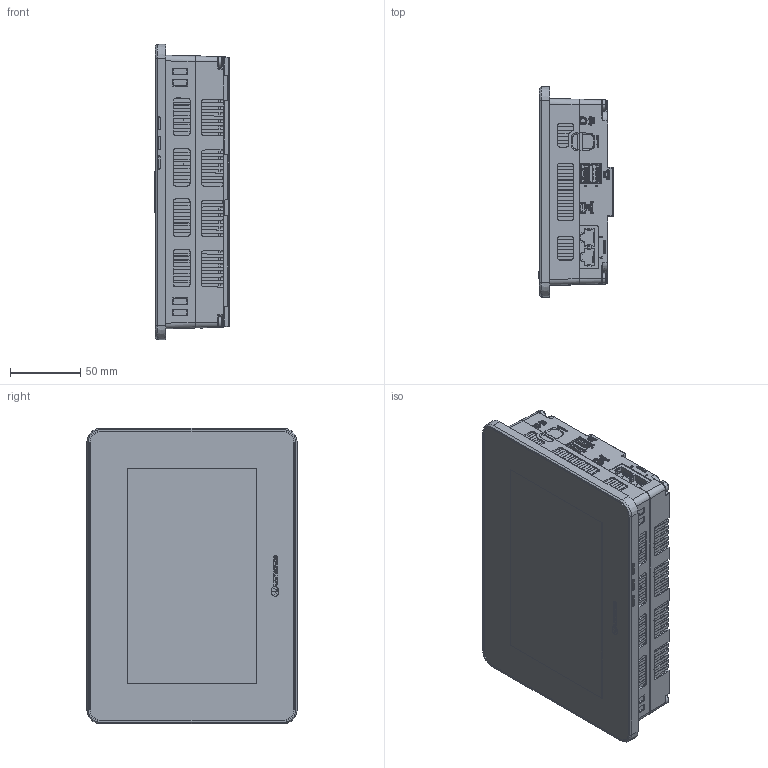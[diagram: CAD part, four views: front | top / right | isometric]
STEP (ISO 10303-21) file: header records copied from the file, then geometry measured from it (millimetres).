
FILE_DESCRIPTION (( 'STEP AP203' ), '1' );
FILE_NAME ('UniStream Panel 7inch.STEP', '2014-01-30T07:55:09', ( 'dell' ), ( '' ), 'SwSTEP 2.0', 'SolidWorks 2011', '' );
FILE_SCHEMA (( 'CONFIG_CONTROL_DESIGN' ));
Products named in the file (1): UniStream Panel 7inch
Bounding box: 53 x 150.13 x 211.13 mm (x, y, z)
Volume: 1296709.3 mm3; surface area: 164129.8 mm2
Topology: 1 solids, 5 shells, 3922 faces, 11067 edges, 7301 vertices
Faces by surface type: plane 2529, bspline 593, cylinder 517, cone 259, torus 12, sphere 12
Entity records: 148479 total; most frequent: CARTESIAN_POINT 53562, ORIENTED_EDGE 22130, DIRECTION 15793, EDGE_CURVE 11065, LINE 7647, VECTOR 7647, VERTEX_POINT 7301, EDGE_LOOP 4232
